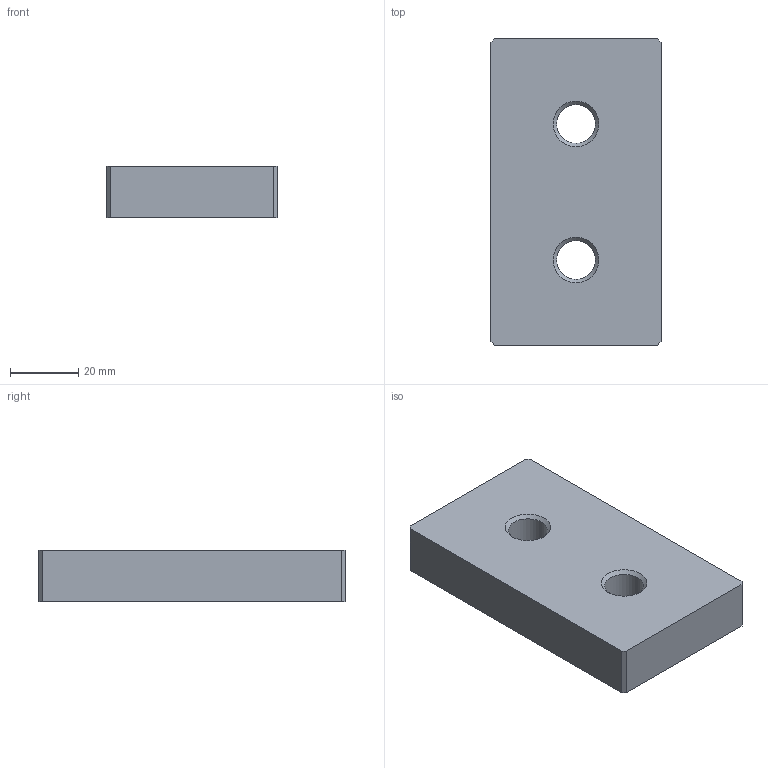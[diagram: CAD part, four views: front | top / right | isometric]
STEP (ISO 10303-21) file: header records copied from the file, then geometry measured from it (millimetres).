
FILE_DESCRIPTION(('STEP AP203'), '1');
FILE_NAME('眐珆1801.01.08.03.001 - 婑鳧氀', '', ('UNSPECIFIED'), ('UNSPECIFIED'), 'C3D Converter', 'C3D Toolkit', '');
FILE_SCHEMA(('CONFIG_CONTROL_DESIGN'));
Length unit declared in the file: millimetre
Products named in the file (1): ТППФ1801.01.08.03.001
Bounding box: 50 x 90 x 15 mm (x, y, z)
Volume: 52196.2 mm3; surface area: 15521.6 mm2
Topology: 1 solids, 1 shells, 53 faces, 128 edges, 78 vertices
Faces by surface type: cone 22, cylinder 16, plane 15
Full cylindrical faces by diameter (mm): 3.242 x10, 11.445 x2
Entity records: 1742 total; most frequent: DIRECTION 236, CARTESIAN_POINT 206, ORIENTED_EDGE 168, AXIS2_PLACEMENT_3D 98, EDGE_LOOP 92, EDGE_CURVE 84, VERTEX_POINT 68, FACE_OUTER_BOUND 58
